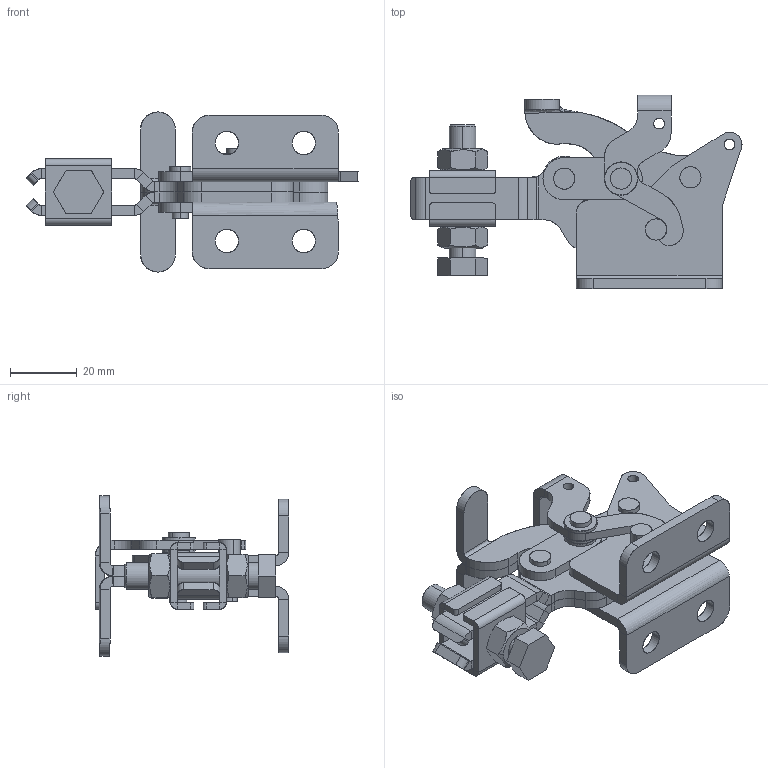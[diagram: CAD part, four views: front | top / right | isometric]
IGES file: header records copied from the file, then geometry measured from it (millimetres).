
Start section: SolidWorks IGES file using analytic representation for surfaces
Global section: file name: C:\Projetos\Grampos\KF-103\KF-103 D TR\KF-103 D TR.IGS; native system: SolidWorks 2012; preprocessor: SolidWorks 2012; author: Ricardo; date: 131213.161406; units: millimetre
Bounding box: 99.58 x 57.98 x 48 mm (x, y, z)
Surface area: 30965.8 mm2 (no closed solid volume)
Topology: 0 solids, 0 shells, 458 faces, 6540 edges, 6536 vertices
Faces by surface type: revolution 246, bspline 212
